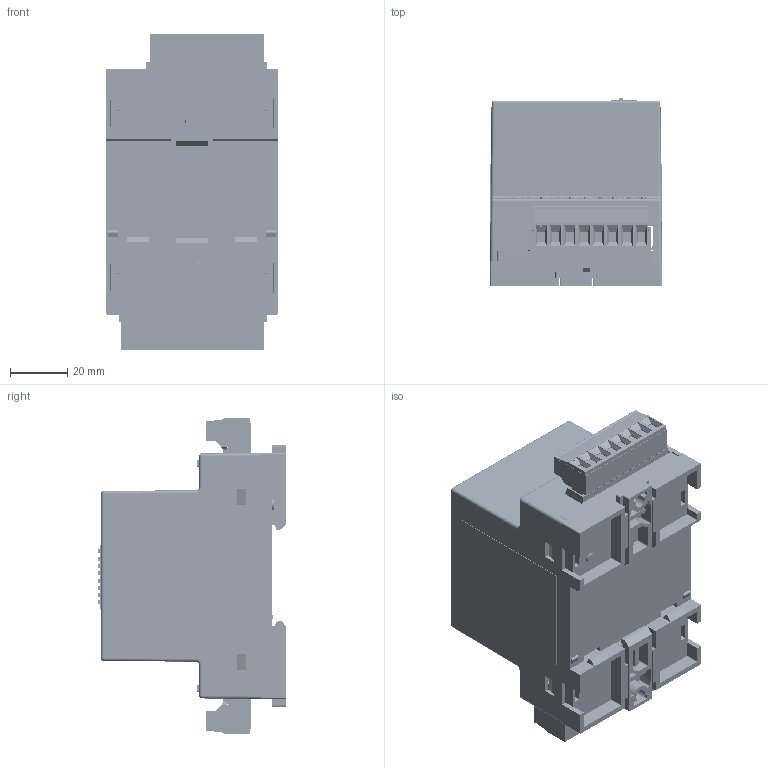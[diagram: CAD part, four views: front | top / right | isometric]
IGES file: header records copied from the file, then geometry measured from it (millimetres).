
Start section: SolidWorks IGES file using analytic representation for surfaces
Global section: file name: D:\Modeling Work\Macromatic\2020\ISDxMx\ISDxMx\3D\ISDUM4.IGS; native system: SolidWorks 2020; preprocessor: SolidWorks 2020; author: mdahl; date: 201115.172928; units: inch
Bounding box: 60.31 x 65.82 x 110.34 mm (x, y, z)
Surface area: 90973.1 mm2 (no closed solid volume)
Topology: 0 solids, 0 shells, 5682 faces, 64206 edges, 64165 vertices
Faces by surface type: bspline 4375, revolution 1307
